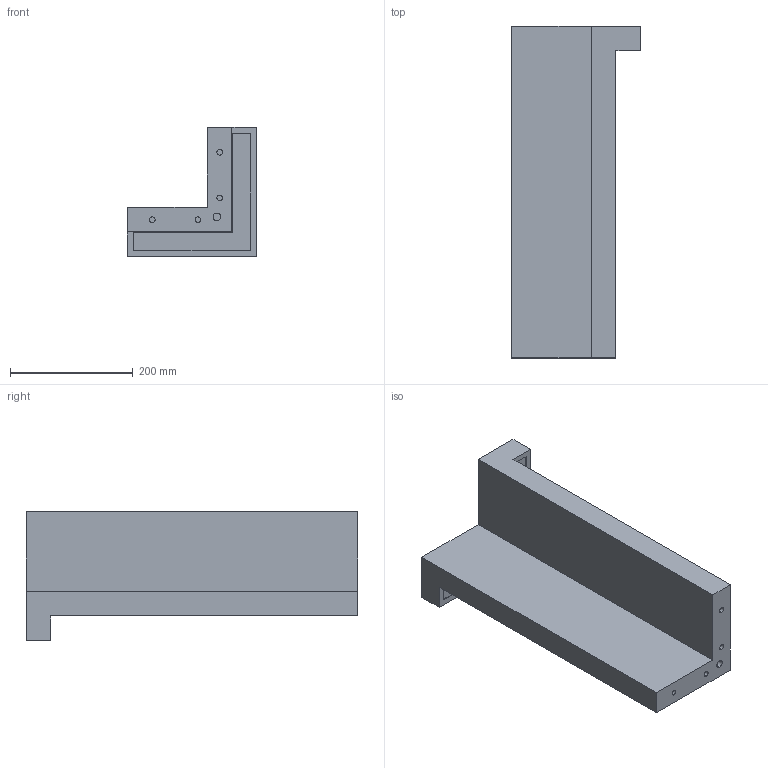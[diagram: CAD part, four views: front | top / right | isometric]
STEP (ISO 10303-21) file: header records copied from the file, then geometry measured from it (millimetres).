
FILE_DESCRIPTION (( 'STEP AP203' ), '1' );
FILE_NAME ('刲陑.676269.52.26.000 WIDE V1.4.STEP', '2024-05-17T10:34:28', ( '' ), ( '' ), 'SwSTEP 2.0', 'SolidWorks 2022', '' );
FILE_SCHEMA (( 'CONFIG_CONTROL_DESIGN' ));
Length unit declared in the file: millimetre
Products named in the file (2): Упрощенный^ЛСРД.676269.52.26.000 WIDE V1.4_01; ЛСРД.676269.52.26.000 WIDE V1.4
Assembly tree (1 placements, depth 2):
  ЛСРД.676269.52.26.000 WIDE V1.4
    Упрощенный^ЛСРД.676269.52.26.000 WIDE V1.4_01
Bounding box: 210 x 540 x 210 mm (x, y, z)
Volume: 7073896.8 mm3; surface area: 430284.8 mm2
Topology: 1 solids, 1 shells, 34 faces, 78 edges, 52 vertices
Faces by surface type: plane 23, cylinder 11
Entity records: 1160 total; most frequent: DIRECTION 176, CARTESIAN_POINT 168, ORIENTED_EDGE 156, EDGE_CURVE 78, AXIS2_PLACEMENT_3D 60, LINE 56, VECTOR 56, VERTEX_POINT 52
